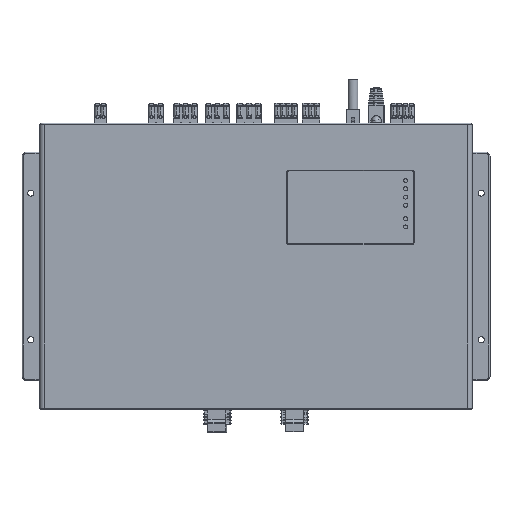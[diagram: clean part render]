
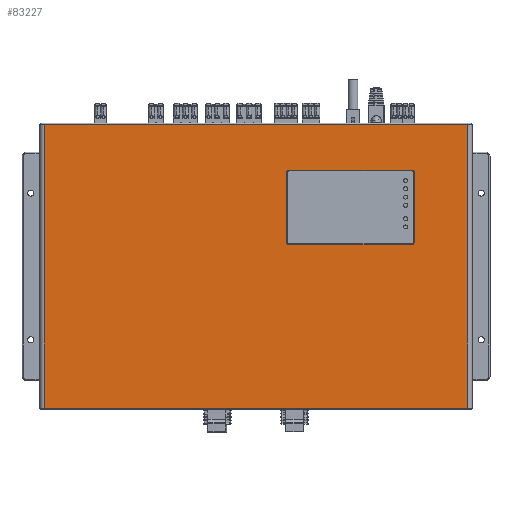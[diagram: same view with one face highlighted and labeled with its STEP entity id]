
A CAD part, top view. The second image highlights one B-rep face of the part: STEP entity #83227.
In plain terms, the highlighted planar face has unit normal (0, 0, 1) as drawn and (0, 1, 0) by its records, which use the part's own axes.
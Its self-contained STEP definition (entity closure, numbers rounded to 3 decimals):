
#373 = CARTESIAN_POINT ( 'NONE',  ( 0., 4., -244. ) ) ;
#4461 = ORIENTED_EDGE ( 'NONE', *, *, #53309, .T. ) ;
#5519 = EDGE_CURVE ( 'NONE', #61531, #110486, #32122, .T. ) ;
#5701 = CARTESIAN_POINT ( 'NONE',  ( 365., 4., -243. ) ) ;
#9055 = CARTESIAN_POINT ( 'NONE',  ( 156.75, 4., -41.75 ) ) ;
#9619 = VECTOR ( 'NONE', #114898, 1000. ) ;
#12314 = ORIENTED_EDGE ( 'NONE', *, *, #26623, .T. ) ;
#12890 = LINE ( 'NONE', #62512, #9619 ) ;
#13960 = EDGE_CURVE ( 'NONE', #112928, #112252, #75937, .T. ) ;
#14622 = EDGE_CURVE ( 'NONE', #80018, #77661, #130398, .T. ) ;
#14979 = AXIS2_PLACEMENT_3D ( 'NONE', #373, #52095, #123801 ) ;
#15667 = VECTOR ( 'NONE', #50314, 1000. ) ;
#16546 = DIRECTION ( 'NONE',  ( 0., -1., 0. ) ) ;
#17571 = VERTEX_POINT ( 'NONE', #132514 ) ;
#17959 = CARTESIAN_POINT ( 'NONE',  ( 156.75, 4., -101.75 ) ) ;
#18589 = ORIENTED_EDGE ( 'NONE', *, *, #48934, .T. ) ;
#19251 = CARTESIAN_POINT ( 'NONE',  ( 365., 4., -244. ) ) ;
#19392 = DIRECTION ( 'NONE',  ( 0., 0., -1. ) ) ;
#21286 = CARTESIAN_POINT ( 'NONE',  ( 0., 4., -1. ) ) ;
#21930 = LINE ( 'NONE', #63257, #127896 ) ;
#25810 = VECTOR ( 'NONE', #62630, 1000. ) ;
#26257 = CARTESIAN_POINT ( 'NONE',  ( 365., 4., -1. ) ) ;
#26623 = EDGE_CURVE ( 'NONE', #17571, #113097, #119131, .T. ) ;
#28364 = DIRECTION ( 'NONE',  ( 0., 0., -1. ) ) ;
#30734 = VECTOR ( 'NONE', #108243, 1000. ) ;
#32122 = LINE ( 'NONE', #121151, #46556 ) ;
#34010 = LINE ( 'NONE', #46868, #30734 ) ;
#34179 = FACE_OUTER_BOUND ( 'NONE', #50356, .T. ) ;
#34662 = CARTESIAN_POINT ( 'NONE',  ( 4., 4., -243. ) ) ;
#35857 = CARTESIAN_POINT ( 'NONE',  ( 158.25, 4., -101.75 ) ) ;
#38917 = EDGE_CURVE ( 'NONE', #117564, #61531, #52706, .T. ) ;
#39724 = ORIENTED_EDGE ( 'NONE', *, *, #38917, .T. ) ;
#39953 = CARTESIAN_POINT ( 'NONE',  ( 51.25, 4., -101.75 ) ) ;
#46556 = VECTOR ( 'NONE', #90647, 1000. ) ;
#46868 = CARTESIAN_POINT ( 'NONE',  ( 0., 4., -103.25 ) ) ;
#48934 = EDGE_CURVE ( 'NONE', #88968, #80018, #34010, .T. ) ;
#49475 = LINE ( 'NONE', #19251, #15667 ) ;
#50210 = DIRECTION ( 'NONE',  ( 0., 0., -1. ) ) ;
#50314 = DIRECTION ( 'NONE',  ( 0., 0., -1. ) ) ;
#50356 = EDGE_LOOP ( 'NONE', ( #106158, #121042, #119648, #39724 ) ) ;
#52095 = DIRECTION ( 'NONE',  ( 0., -1., 0. ) ) ;
#52706 = LINE ( 'NONE', #83514, #104023 ) ;
#53087 = LINE ( 'NONE', #21286, #25810 ) ;
#53309 = EDGE_CURVE ( 'NONE', #113097, #112928, #118981, .T. ) ;
#53408 = CIRCLE ( 'NONE', #87472, 1.5 ) ;
#53607 = EDGE_CURVE ( 'NONE', #77661, #17571, #12890, .T. ) ;
#55000 = FACE_BOUND ( 'NONE', #130126, .T. ) ;
#58549 = DIRECTION ( 'NONE',  ( -1., 0., 0. ) ) ;
#61531 = VERTEX_POINT ( 'NONE', #34662 ) ;
#62512 = CARTESIAN_POINT ( 'NONE',  ( 158.25, 4., -244. ) ) ;
#62630 = DIRECTION ( 'NONE',  ( 1., 0., 0. ) ) ;
#62802 = AXIS2_PLACEMENT_3D ( 'NONE', #78121, #16546, #88371 ) ;
#63257 = CARTESIAN_POINT ( 'NONE',  ( 49.75, 4., -244. ) ) ;
#68189 = VERTEX_POINT ( 'NONE', #26257 ) ;
#68847 = CARTESIAN_POINT ( 'NONE',  ( 0., 4., -40.25 ) ) ;
#69966 = ORIENTED_EDGE ( 'NONE', *, *, #13960, .T. ) ;
#71291 = CARTESIAN_POINT ( 'NONE',  ( 156.75, 4., -40.25 ) ) ;
#71755 = CARTESIAN_POINT ( 'NONE',  ( 4., 4., -1. ) ) ;
#75937 = CIRCLE ( 'NONE', #62802, 1.5 ) ;
#77385 = ORIENTED_EDGE ( 'NONE', *, *, #106127, .T. ) ;
#77518 = CARTESIAN_POINT ( 'NONE',  ( 156.75, 4., -103.25 ) ) ;
#77661 = VERTEX_POINT ( 'NONE', #35857 ) ;
#78121 = CARTESIAN_POINT ( 'NONE',  ( 51.25, 4., -41.75 ) ) ;
#80018 = VERTEX_POINT ( 'NONE', #77518 ) ;
#80625 = ORIENTED_EDGE ( 'NONE', *, *, #53607, .T. ) ;
#80925 = DIRECTION ( 'NONE',  ( 0., -1., 0. ) ) ;
#83227 = ADVANCED_FACE ( 'NONE', ( #55000, #34179 ), #113464, .F. ) ;
#83514 = CARTESIAN_POINT ( 'NONE',  ( 0., 4., -243. ) ) ;
#83969 = DIRECTION ( 'NONE',  ( -1., 0., 0. ) ) ;
#84972 = EDGE_CURVE ( 'NONE', #68189, #117564, #49475, .T. ) ;
#87472 = AXIS2_PLACEMENT_3D ( 'NONE', #39953, #111550, #50210 ) ;
#88371 = DIRECTION ( 'NONE',  ( 0., 0., -1. ) ) ;
#88482 = VECTOR ( 'NONE', #58549, 1000. ) ;
#88968 = VERTEX_POINT ( 'NONE', #127544 ) ;
#89811 = DIRECTION ( 'NONE',  ( 0., -1., 0. ) ) ;
#90647 = DIRECTION ( 'NONE',  ( 0., 0., 1. ) ) ;
#91690 = EDGE_CURVE ( 'NONE', #110486, #68189, #53087, .T. ) ;
#101346 = CARTESIAN_POINT ( 'NONE',  ( 49.75, 4., -101.75 ) ) ;
#104023 = VECTOR ( 'NONE', #83969, 1000. ) ;
#106127 = EDGE_CURVE ( 'NONE', #112252, #126139, #21930, .T. ) ;
#106158 = ORIENTED_EDGE ( 'NONE', *, *, #5519, .T. ) ;
#106229 = DIRECTION ( 'NONE',  ( 0., 0., -1. ) ) ;
#108100 = EDGE_CURVE ( 'NONE', #126139, #88968, #53408, .T. ) ;
#108243 = DIRECTION ( 'NONE',  ( 1., 0., 0. ) ) ;
#110486 = VERTEX_POINT ( 'NONE', #71755 ) ;
#111550 = DIRECTION ( 'NONE',  ( 0., -1., 0. ) ) ;
#112252 = VERTEX_POINT ( 'NONE', #130713 ) ;
#112928 = VERTEX_POINT ( 'NONE', #130131 ) ;
#113097 = VERTEX_POINT ( 'NONE', #71291 ) ;
#113443 = AXIS2_PLACEMENT_3D ( 'NONE', #9055, #80925, #19392 ) ;
#113464 = PLANE ( 'NONE',  #14979 ) ;
#114898 = DIRECTION ( 'NONE',  ( 0., 0., 1. ) ) ;
#115993 = ORIENTED_EDGE ( 'NONE', *, *, #14622, .T. ) ;
#116244 = ORIENTED_EDGE ( 'NONE', *, *, #108100, .T. ) ;
#117564 = VERTEX_POINT ( 'NONE', #5701 ) ;
#118981 = LINE ( 'NONE', #68847, #88482 ) ;
#119131 = CIRCLE ( 'NONE', #113443, 1.5 ) ;
#119648 = ORIENTED_EDGE ( 'NONE', *, *, #84972, .T. ) ;
#121042 = ORIENTED_EDGE ( 'NONE', *, *, #91690, .T. ) ;
#121151 = CARTESIAN_POINT ( 'NONE',  ( 4., 4., -244. ) ) ;
#121287 = AXIS2_PLACEMENT_3D ( 'NONE', #17959, #89811, #28364 ) ;
#123801 = DIRECTION ( 'NONE',  ( 0., 0., -1. ) ) ;
#126139 = VERTEX_POINT ( 'NONE', #101346 ) ;
#127544 = CARTESIAN_POINT ( 'NONE',  ( 51.25, 4., -103.25 ) ) ;
#127896 = VECTOR ( 'NONE', #106229, 1000. ) ;
#130126 = EDGE_LOOP ( 'NONE', ( #12314, #4461, #69966, #77385, #116244, #18589, #115993, #80625 ) ) ;
#130131 = CARTESIAN_POINT ( 'NONE',  ( 51.25, 4., -40.25 ) ) ;
#130398 = CIRCLE ( 'NONE', #121287, 1.5 ) ;
#130713 = CARTESIAN_POINT ( 'NONE',  ( 49.75, 4., -41.75 ) ) ;
#132514 = CARTESIAN_POINT ( 'NONE',  ( 158.25, 4., -41.75 ) ) ;
